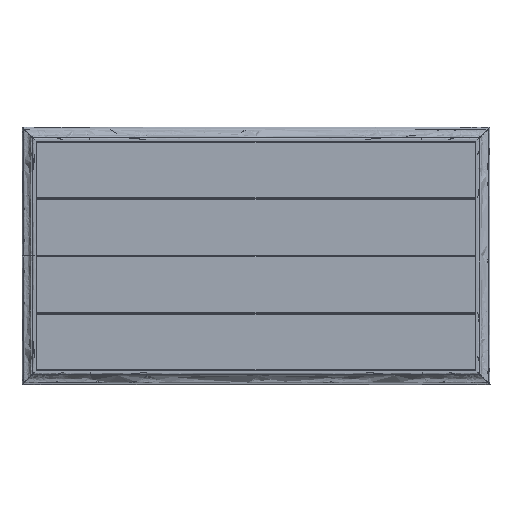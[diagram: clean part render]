
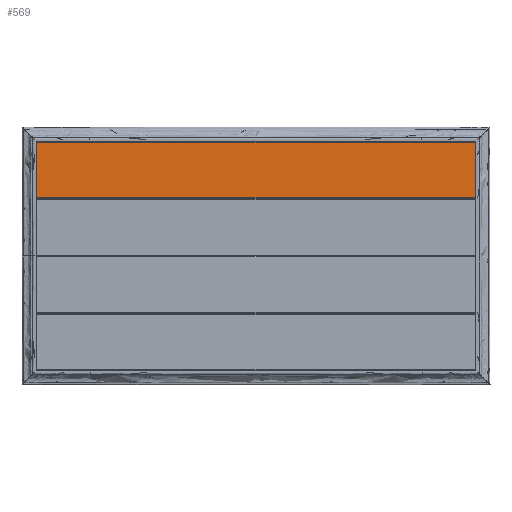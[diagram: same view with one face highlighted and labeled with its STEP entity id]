
A CAD part, top view. The second image highlights one B-rep face of the part: STEP entity #569.
In plain terms, the highlighted planar face has unit normal (0, 0, 1).
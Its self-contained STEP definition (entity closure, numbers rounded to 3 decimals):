
#569=ADVANCED_FACE('',(#794),#3182,.T.);
#794=FACE_OUTER_BOUND('',#1019,.T.);
#1019=EDGE_LOOP('',(#1643,#1644,#1645,#1646));
#1643=ORIENTED_EDGE('',*,*,#2353,.T.);
#1644=ORIENTED_EDGE('',*,*,#2355,.T.);
#1645=ORIENTED_EDGE('',*,*,#2356,.T.);
#1646=ORIENTED_EDGE('',*,*,#2354,.T.);
#2353=EDGE_CURVE('',#3001,#3002,#2704,.T.);
#2354=EDGE_CURVE('',#3003,#3001,#2705,.T.);
#2355=EDGE_CURVE('',#3002,#3004,#2706,.T.);
#2356=EDGE_CURVE('',#3004,#3003,#2707,.T.);
#2704=B_SPLINE_CURVE_WITH_KNOTS('',1,(#8707,#8708),.UNSPECIFIED.,.F.,.F.,
(2,2),(2.,938.),.UNSPECIFIED.);
#2705=B_SPLINE_CURVE_WITH_KNOTS('',1,(#8709,#8710),.UNSPECIFIED.,.F.,.F.,
(2,2),(2.,120.5),.UNSPECIFIED.);
#2706=B_SPLINE_CURVE_WITH_KNOTS('',1,(#8711,#8712),.UNSPECIFIED.,.F.,.F.,
(2,2),(2.,120.5),.UNSPECIFIED.);
#2707=B_SPLINE_CURVE_WITH_KNOTS('',1,(#8713,#8714),.UNSPECIFIED.,.F.,.F.,
(2,2),(2.,938.),.UNSPECIFIED.);
#3001=VERTEX_POINT('',#8671);
#3002=VERTEX_POINT('',#8672);
#3003=VERTEX_POINT('',#8673);
#3004=VERTEX_POINT('',#8674);
#3182=PLANE('',#3276);
#3276=AXIS2_PLACEMENT_3D('',#8546,#3353,$);
#3353=DIRECTION('',(0.,0.,1.));
#8546=CARTESIAN_POINT('',(-470.,397.5,450.));
#8671=CARTESIAN_POINT('',(468.,518.,450.));
#8672=CARTESIAN_POINT('',(-468.,518.,450.));
#8673=CARTESIAN_POINT('',(468.,399.5,450.));
#8674=CARTESIAN_POINT('',(-468.,399.5,450.));
#8707=CARTESIAN_POINT('',(468.,518.,450.));
#8708=CARTESIAN_POINT('',(-468.,518.,450.));
#8709=CARTESIAN_POINT('',(468.,399.5,450.));
#8710=CARTESIAN_POINT('',(468.,518.,450.));
#8711=CARTESIAN_POINT('',(-468.,518.,450.));
#8712=CARTESIAN_POINT('',(-468.,399.5,450.));
#8713=CARTESIAN_POINT('',(-468.,399.5,450.));
#8714=CARTESIAN_POINT('',(468.,399.5,450.));
